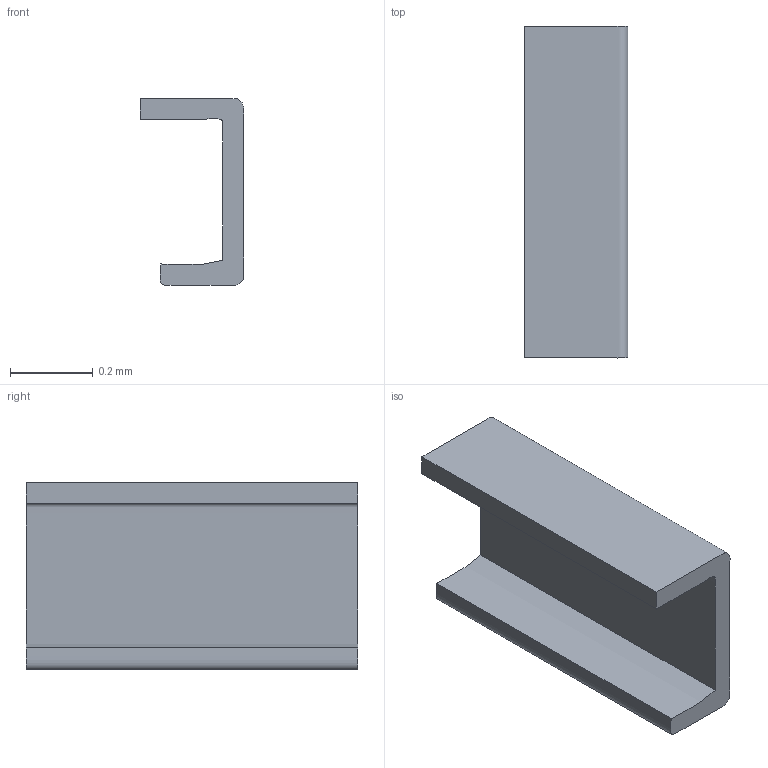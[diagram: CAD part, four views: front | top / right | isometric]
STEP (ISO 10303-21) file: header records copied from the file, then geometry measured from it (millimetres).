
FILE_DESCRIPTION(/* description */ ('STEP AP242 Edition 2','CAx-IF Rec.Pracs.---Representation and Presentation of Product Manufacturing Information (PMI)---4.0---2014-10-13','CAx-IF Rec.Pracs.---3D Tessellated Geometry---0.4---2014-09-14','2;1','CAx-IF Rec.Pracs.---User Defined Attributes---1.5---2016-08-15'),/* implementation_level */ '2;1');
FILE_NAME(/* name */ 'Drone Layout - Surface 392',/* time_stamp */ '2026-10-04T22:22:58Z',/* author */ (''),/* organization */ (''),/* preprocessor_version */ 'ST-DEVELOPER v20',/* originating_system */ 'ONSHAPE BY PTC INC, 1.221',/* authorisation */ ' ');
FILE_SCHEMA (('AP242_MANAGED_MODEL_BASED_3D_ENGINEERING_MIM_LF { 1 0 10303 442 3 1 4 }'));
Length unit declared in the file: metre
Products named in the file (1): RES0603 v1:1__Body3
Bounding box: 0.25 x 0.8 x 0.45 mm (x, y, z)
Volume: 0 mm3; surface area: 1.4 mm2
Topology: 1 solids, 1 shells, 6 faces, 12 edges, 8 vertices
Faces by surface type: plane 3, bspline 2, cylinder 1
Entity records: 261 total; most frequent: CARTESIAN_POINT 135, ORIENTED_EDGE 24, DIRECTION 18, EDGE_CURVE 12, VERTEX_POINT 8, AXIS2_PLACEMENT_3D 7, B_SPLINE_CURVE_WITH_KNOTS 6, EDGE_LOOP 6
